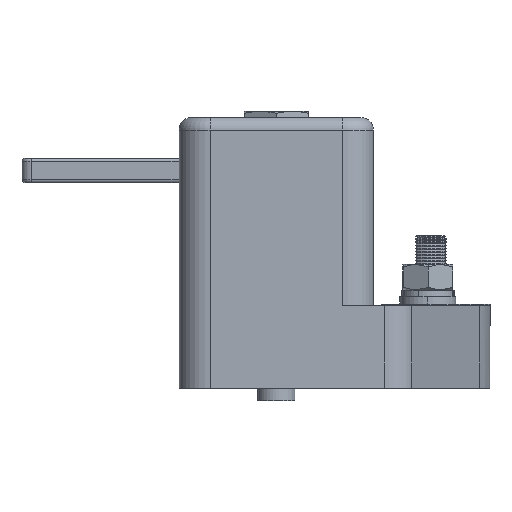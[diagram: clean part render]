
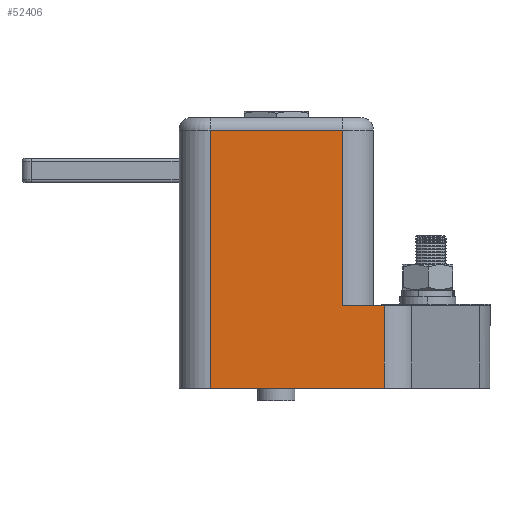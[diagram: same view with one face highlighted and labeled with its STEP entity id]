
A CAD part, left-side view. The second image highlights one B-rep face of the part: STEP entity #52406.
In plain terms, the highlighted planar face has unit normal (-1, 0, 0).
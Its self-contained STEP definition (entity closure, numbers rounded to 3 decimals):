
#362 = DIRECTION ( 'NONE',  ( 0., -1., 0. ) ) ;
#1110 = EDGE_CURVE ( 'NONE', #34347, #32806, #46465, .T. ) ;
#2738 = VECTOR ( 'NONE', #34115, 1000. ) ;
#5419 = DIRECTION ( 'NONE',  ( 0., 1., 0. ) ) ;
#5793 = CARTESIAN_POINT ( 'NONE',  ( -105., 87., -21.25 ) ) ;
#6023 = LINE ( 'NONE', #14115, #2738 ) ;
#6441 = VECTOR ( 'NONE', #32119, 1000. ) ;
#7499 = ORIENTED_EDGE ( 'NONE', *, *, #47899, .T. ) ;
#10060 = DIRECTION ( 'NONE',  ( 1., 0., 0. ) ) ;
#10324 = CARTESIAN_POINT ( 'NONE',  ( -105., 83., -21.25 ) ) ;
#10625 = CARTESIAN_POINT ( 'NONE',  ( -105., 0., -21.25 ) ) ;
#13651 = LINE ( 'NONE', #45541, #46003 ) ;
#14115 = CARTESIAN_POINT ( 'NONE',  ( -105., 83., 31.25 ) ) ;
#14696 = VECTOR ( 'NONE', #30054, 1000. ) ;
#15161 = PLANE ( 'NONE',  #65930 ) ;
#15384 = CARTESIAN_POINT ( 'NONE',  ( -105., 26.5, 21.25 ) ) ;
#15801 = CARTESIAN_POINT ( 'NONE',  ( -105., 87., 31.25 ) ) ;
#16218 = LINE ( 'NONE', #63692, #6441 ) ;
#18580 = VERTEX_POINT ( 'NONE', #24286 ) ;
#19347 = EDGE_CURVE ( 'NONE', #64334, #51185, #36992, .T. ) ;
#19745 = DIRECTION ( 'NONE',  ( 0., 0., -1. ) ) ;
#20919 = ORIENTED_EDGE ( 'NONE', *, *, #22074, .T. ) ;
#22074 = EDGE_CURVE ( 'NONE', #51030, #34347, #13651, .T. ) ;
#24286 = CARTESIAN_POINT ( 'NONE',  ( -105., 0., 34.671 ) ) ;
#30054 = DIRECTION ( 'NONE',  ( 0., 0., 1. ) ) ;
#30415 = FACE_OUTER_BOUND ( 'NONE', #64802, .T. ) ;
#32119 = DIRECTION ( 'NONE',  ( 0., -1., 0. ) ) ;
#32806 = VERTEX_POINT ( 'NONE', #42552 ) ;
#34115 = DIRECTION ( 'NONE',  ( 0., 0., -1. ) ) ;
#34347 = VERTEX_POINT ( 'NONE', #15384 ) ;
#34798 = ORIENTED_EDGE ( 'NONE', *, *, #65918, .F. ) ;
#35799 = CARTESIAN_POINT ( 'NONE',  ( -105., 0., 31.25 ) ) ;
#36484 = DIRECTION ( 'NONE',  ( 0., 1., 0. ) ) ;
#36992 = LINE ( 'NONE', #5793, #65232 ) ;
#39823 = CARTESIAN_POINT ( 'NONE',  ( -105., 26.5, 34.671 ) ) ;
#41024 = CARTESIAN_POINT ( 'NONE',  ( -105., 87., 21.25 ) ) ;
#42552 = CARTESIAN_POINT ( 'NONE',  ( -105., 83., 21.25 ) ) ;
#45541 = CARTESIAN_POINT ( 'NONE',  ( -105., 26.5, 31.25 ) ) ;
#46003 = VECTOR ( 'NONE', #19745, 1000. ) ;
#46465 = LINE ( 'NONE', #41024, #64489 ) ;
#47899 = EDGE_CURVE ( 'NONE', #32806, #64334, #6023, .T. ) ;
#48092 = EDGE_CURVE ( 'NONE', #51185, #18580, #57149, .T. ) ;
#51030 = VERTEX_POINT ( 'NONE', #39823 ) ;
#51185 = VERTEX_POINT ( 'NONE', #10625 ) ;
#52406 = ADVANCED_FACE ( 'NONE', ( #30415 ), #15161, .F. ) ;
#56456 = ORIENTED_EDGE ( 'NONE', *, *, #19347, .T. ) ;
#57149 = LINE ( 'NONE', #35799, #14696 ) ;
#58669 = ORIENTED_EDGE ( 'NONE', *, *, #48092, .T. ) ;
#61253 = ORIENTED_EDGE ( 'NONE', *, *, #1110, .T. ) ;
#63692 = CARTESIAN_POINT ( 'NONE',  ( -105., 26.5, 34.671 ) ) ;
#64334 = VERTEX_POINT ( 'NONE', #10324 ) ;
#64489 = VECTOR ( 'NONE', #5419, 1000. ) ;
#64802 = EDGE_LOOP ( 'NONE', ( #61253, #7499, #56456, #58669, #34798, #20919 ) ) ;
#65232 = VECTOR ( 'NONE', #362, 1000. ) ;
#65918 = EDGE_CURVE ( 'NONE', #51030, #18580, #16218, .T. ) ;
#65930 = AXIS2_PLACEMENT_3D ( 'NONE', #15801, #10060, #36484 ) ;
